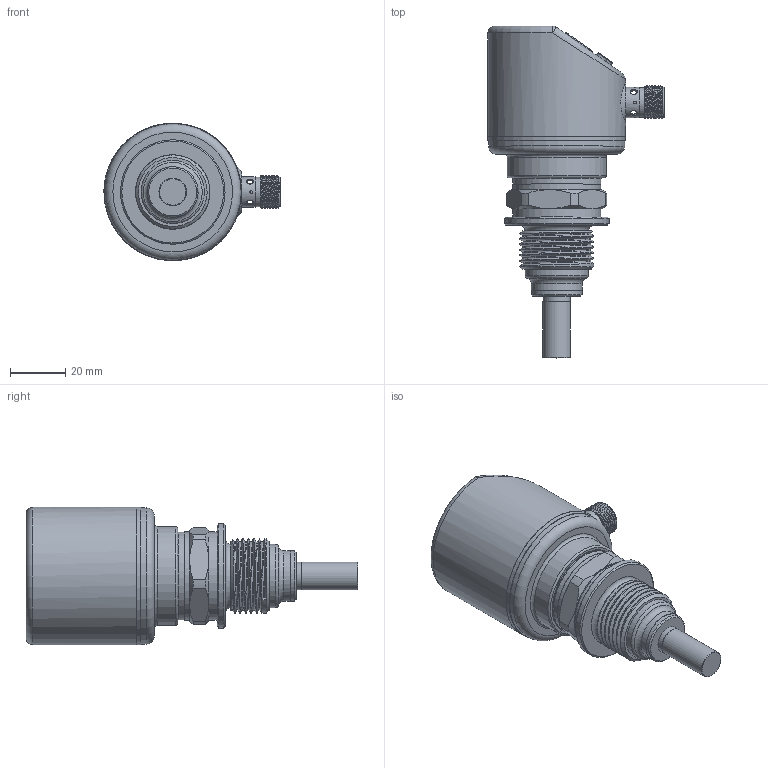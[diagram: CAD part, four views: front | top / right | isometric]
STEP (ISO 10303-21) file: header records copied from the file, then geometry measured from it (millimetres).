
FILE_DESCRIPTION (( 'STEP AP214' ), '1' );
FILE_NAME ('3-4热式数显.STEP', '2025-03-11T05:37:42', ( '' ), ( '' ), 'SwSTEP 2.0', 'SolidWorks 2020', '' );
FILE_SCHEMA (( 'AUTOMOTIVE_DESIGN' ));
Length unit declared in the file: millimetre
Products named in the file (12): 防水接头壳体1_默认<按加工>; 笢潔蟀諉极; 揤薯換覜ん抻芛; PVC躇猾菜; 偌瑩簽; 123; 音叉热式变径管2; 揤薯秞脫蛌諉芛; 揤薯珆尨欶; 揤薯奻裔; 3-4热式数显; 抻芛俋蹟恇
Assembly tree (13 placements, depth 3):
  3-4热式数显
    揤薯奻裔
    揤薯珆尨欶
    防水接头壳体1_默认<按加工>
    偌瑩簽  x3
    PVC躇猾菜
    揤薯換覜ん抻芛
      抻芛俋蹟恇
    123
    揤薯秞脫蛌諉芛
    笢潔蟀諉极
    音叉热式变径管2
Bounding box: 64 x 120.6 x 50 mm (x, y, z)
Volume: 34877.6 mm3; surface area: 40828.3 mm2
Topology: 12 solids, 12 shells, 405 faces, 926 edges, 602 vertices
Faces by surface type: plane 152, cylinder 151, cone 59, bspline 20, torus 19, sphere 4
Full cylindrical faces by diameter (mm): 1 x4, 1.2 x3, 1.8 x1, 2 x19, 2.2 x6, 2.5 x6, 2.8 x1, 4.3 x3, 4.5 x6, 7.3 x1, 8 x1, 9 x2, 9.8 x1, 10 x2, 10.8 x1, 11 x2, 16 x1, 16.8 x1, 17 x1, 18.4 x2, 19 x1, 21.5 x1, 23 x1, 24 x1, 26 x1, 27.2 x1, 27.5 x1, 27.6 x1, 30 x2, 30.04 x2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
Entity records: 18133 total; most frequent: CARTESIAN_POINT 10151, DIRECTION 1578, ORIENTED_EDGE 1264, AXIS2_PLACEMENT_3D 663, EDGE_CURVE 632, EDGE_LOOP 580, VERTEX_POINT 476, FACE_OUTER_BOUND 444
